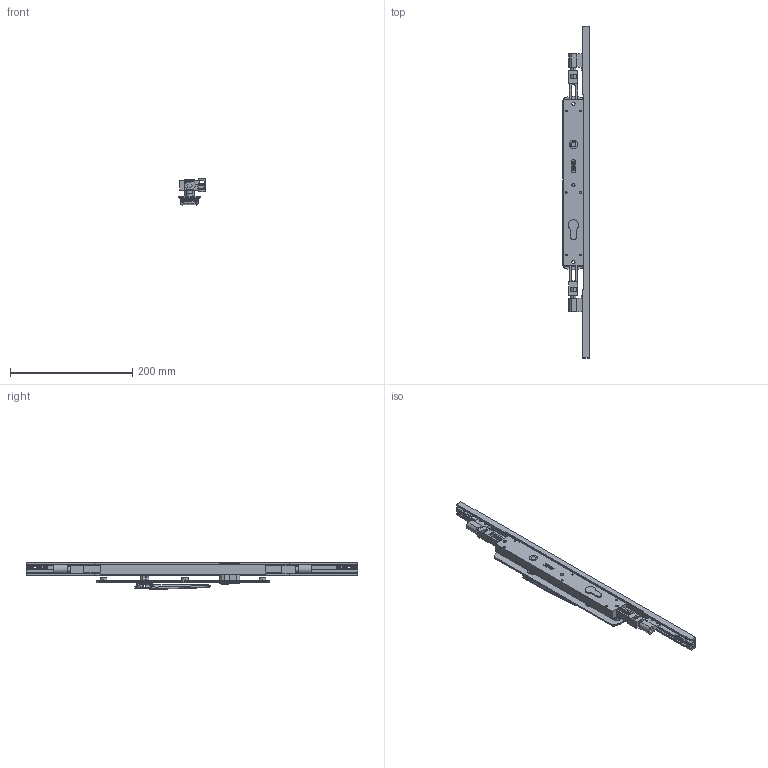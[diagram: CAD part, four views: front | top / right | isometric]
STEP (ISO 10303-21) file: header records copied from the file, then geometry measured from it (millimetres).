
FILE_DESCRIPTION (( 'STEP AP214' ), '1' );
FILE_NAME ('TPL-W-APC-610-L 28Oct2024.STEP', '2024-10-28T03:20:16', ( '' ), ( '' ), 'SwSTEP 2.0', 'SolidWorks 2023', '' );
FILE_SCHEMA (( 'AUTOMOTIVE_DESIGN' ));
Length unit declared in the file: millimetre
Products named in the file (19): Copy of TPLGen2 lock body keyed^Copy of TPLGen2 lock body keyed assembly_TPL-W-APC-110 18Oct2024; Adapter C - simplfied^TPL-W-APC-110 18Oct2024; Copy of LKC-531 Lock twinpoint transmission rod wood system^TPL-W-APC-110 18Oct2024_Standard Range (588.7mm); Copy of LKC-584 Pivot body zinc - simplified^Copy of TPGen2 handle keyed internal zinc - simplified_TPL-W-APC-110 18Oct2024; Adapter D - simplfied^TPL-W-APC-110 18Oct2024; Copy of LKC-512 Escutcheon plate keyed internal 285mm long zinc - simplified^Copy of TPGen2 handle keyed internal zinc - simplified_TPL-W-APC-110 18Oct2024; Copy of TPLGen2 push rod - simplified^Copy of TPLGen2 lock body keyed assembly_TPL-W-APC-110 18Oct2024_Female thread M10; Copy of TPGen2 handle keyed internal zinc - simplified^TPL-W-APC-110 18Oct2024_Vertical; Bolt.step; Copy of COV-115-C Cover C suit TPLGen2 standard range AU^TPL-W-APC-110 18Oct2024; TPL-W-APC-610-L 28Oct2024; Copy of LKC-585 Rotator body zinc^Copy of TPGen2 handle keyed internal zinc - simplified_TPL-W-APC-110 18Oct2024; Copy of LKC-586 Spindle square 8mm with M4 hole^Copy of TPGen2 handle keyed internal zinc - simplified_TPL-W-APC-110 18Oct2024_25mm; Copy of LKC-505 Swing handle zinc - simplified^Copy of TPGen2 handle keyed internal zinc - simplified_TPL-W-APC-110 18Oct2024; Copy of Copy of LKC-531 Lock twinpoint transmission rod wood system^TPL-W-APC-110 18Oct2024_Standard Range 2891.7mm; Copy of TPLGen2 lock body keyed assembly^TPL-W-APC-110 18Oct2024_Bolts extended; Copy of COV-115-A Cover A suit TPLGen2 standard range AU with hinge holes^TPL-W-APC-110 18Oct2024_1335mm; Copy of COV-115-B Cover B suit TPLGen2 standard range AU with hinge holes^TPL-W-APC-110 18Oct2024_2870mm; Copy of TPL-022 Lock cylinder single 3 pin 23mm^TPL-W-APC-110 18Oct2024_Left
Assembly tree (16 placements, depth 3):
  Bolt.step
  TPL-W-APC-610-L 28Oct2024
    Copy of TPLGen2 lock body keyed assembly^TPL-W-APC-110 18Oct2024_Bolts extended
      Copy of TPLGen2 lock body keyed^Copy of TPLGen2 lock body keyed assembly_TPL-W-APC-110 18Oct2024
      Copy of TPLGen2 push rod - simplified^Copy of TPLGen2 lock body keyed assembly_TPL-W-APC-110 18Oct2024_Female thread M10  x2
    Copy of TPGen2 handle keyed internal zinc - simplified^TPL-W-APC-110 18Oct2024_Vertical
      Copy of LKC-512 Escutcheon plate keyed internal 285mm long zinc - simplified^Copy of TPGen2 handle keyed internal zinc - simplified_TPL-W-APC-110 18Oct2024
      Copy of LKC-505 Swing handle zinc - simplified^Copy of TPGen2 handle keyed internal zinc - simplified_TPL-W-APC-110 18Oct2024
      Copy of LKC-585 Rotator body zinc^Copy of TPGen2 handle keyed internal zinc - simplified_TPL-W-APC-110 18Oct2024
      Copy of LKC-586 Spindle square 8mm with M4 hole^Copy of TPGen2 handle keyed internal zinc - simplified_TPL-W-APC-110 18Oct2024_25mm
      Copy of LKC-584 Pivot body zinc - simplified^Copy of TPGen2 handle keyed internal zinc - simplified_TPL-W-APC-110 18Oct2024
    Copy of TPL-022 Lock cylinder single 3 pin 23mm^TPL-W-APC-110 18Oct2024_Left
    Copy of LKC-531 Lock twinpoint transmission rod wood system^TPL-W-APC-110 18Oct2024_Standard Range (588.7mm)
    Copy of Copy of LKC-531 Lock twinpoint transmission rod wood system^TPL-W-APC-110 18Oct2024_Standard Range 2891.7mm
    Copy of COV-115-C Cover C suit TPLGen2 standard range AU^TPL-W-APC-110 18Oct2024
    Adapter C - simplfied^TPL-W-APC-110 18Oct2024
    Adapter D - simplfied^TPL-W-APC-110 18Oct2024
  Copy of COV-115-A Cover A suit TPLGen2 standard range AU with hinge holes^TPL-W-APC-110 18Oct2024_1335mm
  Copy of COV-115-B Cover B suit TPLGen2 standard range AU with hinge holes^TPL-W-APC-110 18Oct2024_2870mm
Bounding box: 43.5 x 544 x 42.86 mm (x, y, z)
Volume: 274844.5 mm3; surface area: 132512.3 mm2
Topology: 14 solids, 14 shells, 913 faces, 2269 edges, 1414 vertices
Faces by surface type: plane 321, bspline 241, cylinder 226, cone 71, torus 46, sphere 8
Entity records: 32842 total; most frequent: CARTESIAN_POINT 13008, ORIENTED_EDGE 4346, DIRECTION 3584, EDGE_CURVE 2173, VERTEX_POINT 1354, AXIS2_PLACEMENT_3D 1320, EDGE_LOOP 977, VECTOR 944
